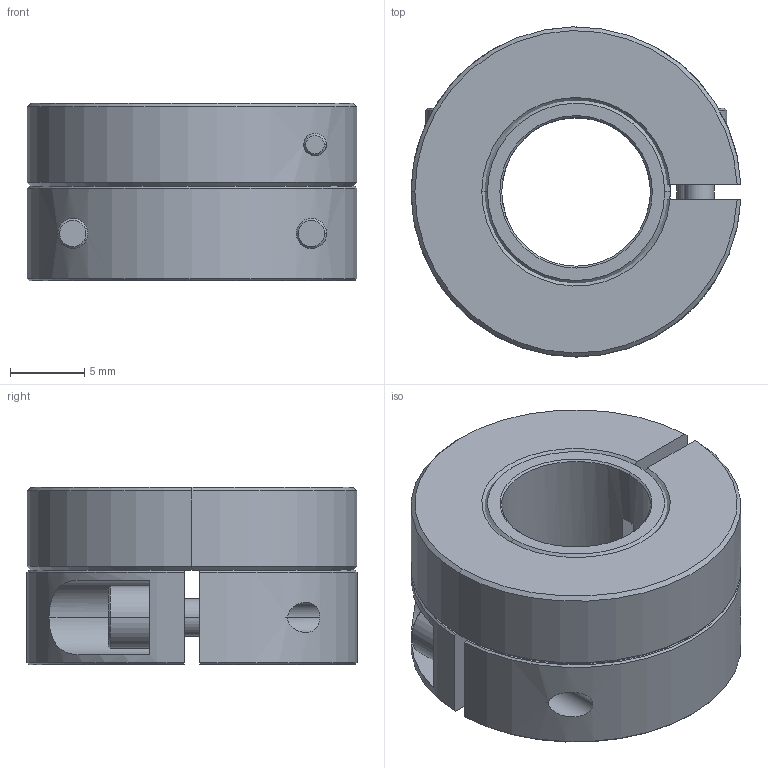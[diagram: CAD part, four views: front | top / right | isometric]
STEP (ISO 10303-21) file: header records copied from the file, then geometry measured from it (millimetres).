
FILE_DESCRIPTION( ( 'STEP File Generated from Kubotek KeyCreator' ), '1' );
FILE_NAME( 'Part1', '2006-06-03T22:46:57', ( 'KeyCreator USER' ), ( 'Kubotek USA, Inc.' ), 'ACIS Interop R13 SP5', 'Kubotek KeyCreator V4.5.0 (0337)', 'KC' );
FILE_SCHEMA( ( 'CONFIG_CONTROL_DESIGN' ) );
Length unit declared in the file: inch
Products named in the file (5): 1; 2; 3; 4; 5
Bounding box: 22.21 x 22.23 x 11.96 mm (x, y, z)
Volume: 3477.8 mm3; surface area: 3536 mm2
Topology: 5 solids, 5 shells, 124 faces, 298 edges, 192 vertices
Faces by surface type: plane 54, cylinder 40, cone 30
Entity records: 4006 total; most frequent: CARTESIAN_POINT 807, DIRECTION 648, ORIENTED_EDGE 596, EDGE_CURVE 298, AXIS2_PLACEMENT_3D 241, VERTEX_POINT 192, LINE 166, VECTOR 166
